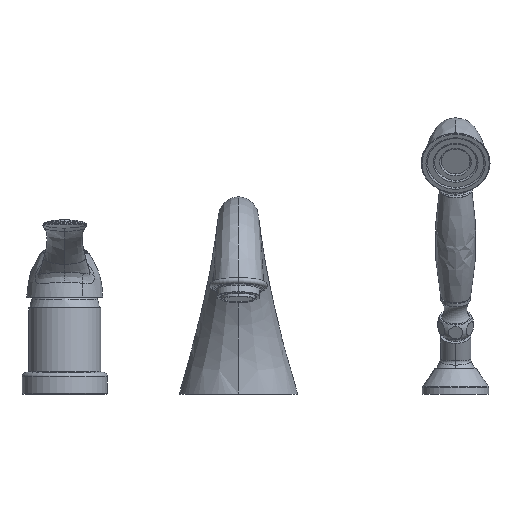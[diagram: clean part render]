
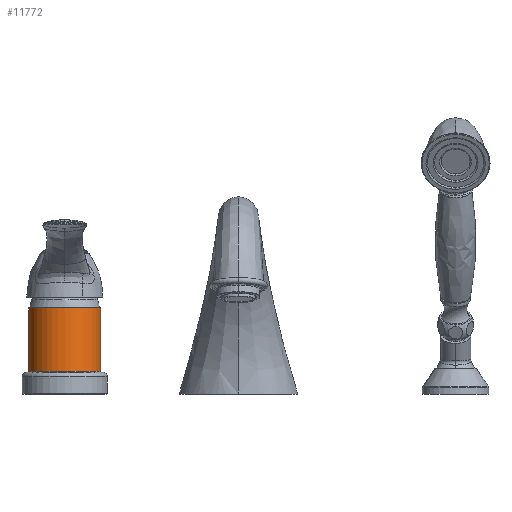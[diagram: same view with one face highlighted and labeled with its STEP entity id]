
A CAD part, top view. The second image highlights one B-rep face of the part: STEP entity #11772.
In plain terms, the highlighted cylindrical face has radius 24.85 mm (diameter 49.7 mm), a partial arc.
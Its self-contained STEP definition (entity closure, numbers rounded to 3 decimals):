
#10180=CARTESIAN_POINT('',(-120.,15.8,0.));
#10181=DIRECTION('',(0.,1.,0.));
#10182=DIRECTION('',(-1.,0.,0.));
#10183=AXIS2_PLACEMENT_3D('',#10180,#10181,#10182);
#10185=DIRECTION('',(0.,-1.,0.));
#10186=VECTOR('',#10185,43.7);
#10187=CARTESIAN_POINT('',(-144.85,59.5,
0.));
#10188=LINE('',#10187,#10186);
#10189=CARTESIAN_POINT('',(-120.,59.5,0.));
#10190=DIRECTION('',(0.,-1.,0.));
#10191=DIRECTION('',(1.,0.,0.));
#10192=AXIS2_PLACEMENT_3D('',#10189,#10190,#10191);
#10194=DIRECTION('',(0.,-1.,0.));
#10195=VECTOR('',#10194,43.7);
#10196=CARTESIAN_POINT('',(-95.15,59.5,
0.));
#10197=LINE('',#10196,#10195);
#10280=CARTESIAN_POINT('',(-144.85,15.8,0.));
#10281=CARTESIAN_POINT('',(-95.15,15.8,0.));
#10282=VERTEX_POINT('',#10280);
#10283=VERTEX_POINT('',#10281);
#10426=CARTESIAN_POINT('',(-144.85,59.5,0.));
#10427=CARTESIAN_POINT('',(-95.15,59.5,0.));
#10428=VERTEX_POINT('',#10426);
#10429=VERTEX_POINT('',#10427);
#11760=CARTESIAN_POINT('',(-120.,-3.,0.));
#11761=DIRECTION('',(0.,1.,0.));
#11762=DIRECTION('',(-1.,0.,0.));
#11763=AXIS2_PLACEMENT_3D('',#11760,#11761,#11762);
#11764=CYLINDRICAL_SURFACE('',#11763,24.85);
#11765=ORIENTED_EDGE('',*,*,#11754,.F.);
#11766=ORIENTED_EDGE('',*,*,#10909,.F.);
#11768=ORIENTED_EDGE('',*,*,#11767,.F.);
#11769=ORIENTED_EDGE('',*,*,#10906,.T.);
#11770=EDGE_LOOP('',(#11765,#11766,#11768,#11769));
#11771=FACE_OUTER_BOUND('',#11770,.F.);
#11772=ADVANCED_FACE('',(#11771),#11764,.T.);
#10184=CIRCLE('',#10183,24.85);
#10193=CIRCLE('',#10192,24.85);
#10906=EDGE_CURVE('',#10429,#10283,#10197,.T.);
#10909=EDGE_CURVE('',#10428,#10282,#10188,.T.);
#11754=EDGE_CURVE('',#10282,#10283,#10184,.T.);
#11767=EDGE_CURVE('',#10429,#10428,#10193,.T.);
